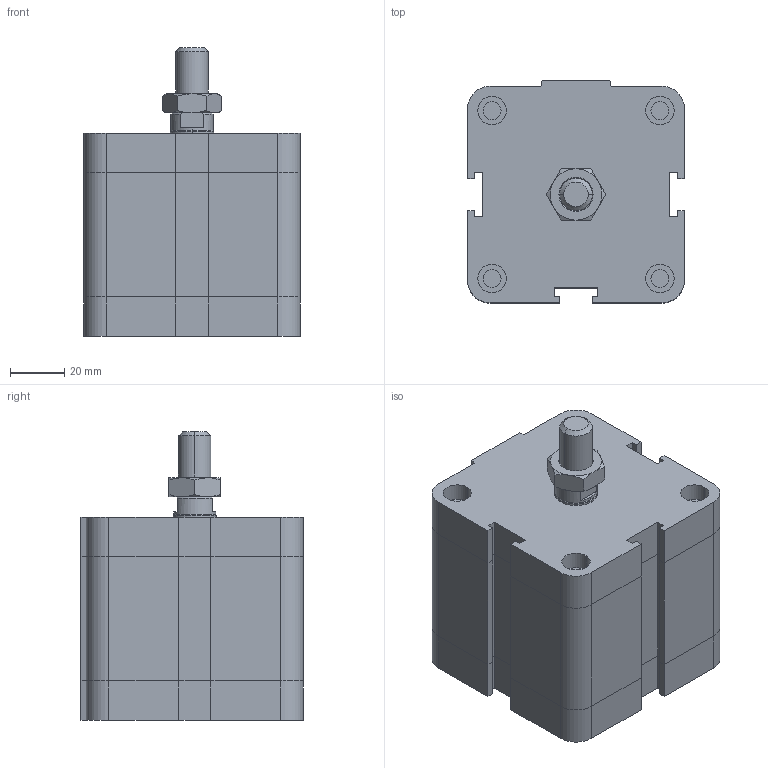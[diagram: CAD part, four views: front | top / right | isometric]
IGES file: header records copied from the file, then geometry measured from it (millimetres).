
Global section: file name: No Iges File Name specified; native system: Autodesk Inventor 2009; preprocessor: AutoDesk Inventor Iges Exporter R2009; author: rivolro1; date: 20081219.162423; units: millimetre
Bounding box: 80 x 82 x 106.5 mm (x, y, z)
Volume: 458200.3 mm3; surface area: 51400.9 mm2
Topology: 3 solids, 3 shells, 216 faces, 472 edges, 282 vertices
Faces by surface type: plane 121, bspline 37, cylinder 20, cone 20, revolution 18
